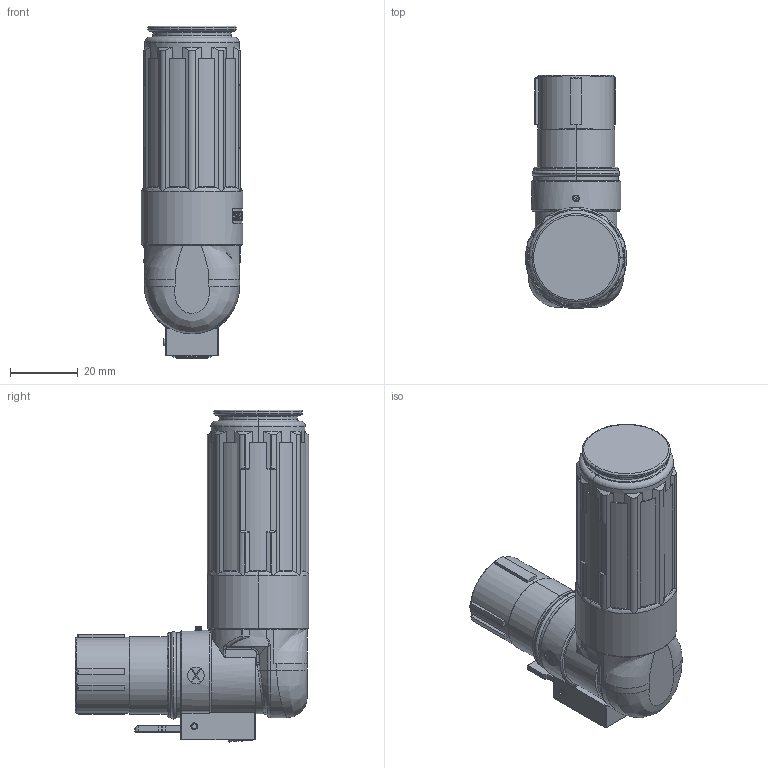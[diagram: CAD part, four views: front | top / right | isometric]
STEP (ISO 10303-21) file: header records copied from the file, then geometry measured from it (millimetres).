
FILE_DESCRIPTION (( 'STEP AP214' ), '1' );
FILE_NAME ('PL28-300.STEP', '2016-09-29T10:18:42', ( '' ), ( '' ), 'SwSTEP 2.0', 'SolidWorks 2014', '' );
FILE_SCHEMA (( 'AUTOMOTIVE_DESIGN' ));
Length unit declared in the file: millimetre
Products named in the file (1): PL28-300
Bounding box: 29.8 x 68.72 x 97.73 mm (x, y, z)
Surface area: 16661.3 mm2 (no closed solid volume)
Topology: 0 solids, 9 shells, 679 faces, 1792 edges, 1173 vertices
Faces by surface type: plane 296, cylinder 215, torus 58, cone 54, bspline 54, sphere 2
Entity records: 31759 total; most frequent: CARTESIAN_POINT 8730, ORIENTED_EDGE 3538, DIRECTION 3114, EDGE_CURVE 1790, VERTEX_POINT 1173, AXIS2_PLACEMENT_3D 1164, VECTOR 786, LINE 786
